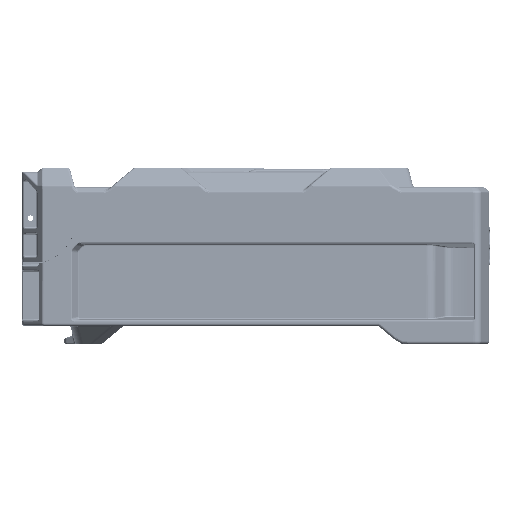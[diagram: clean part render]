
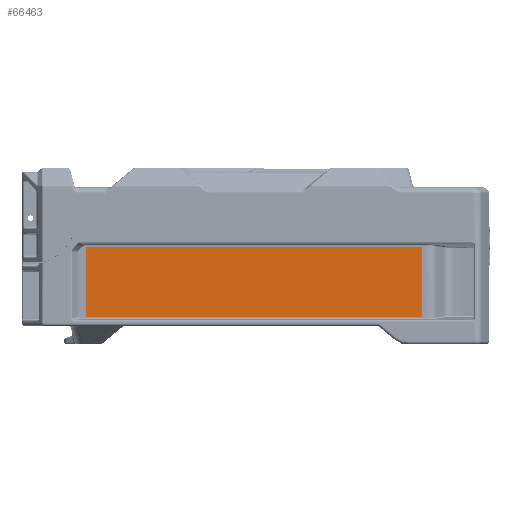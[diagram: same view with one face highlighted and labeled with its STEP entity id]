
A CAD part, left-side view. The second image highlights one B-rep face of the part: STEP entity #66463.
In plain terms, the highlighted planar face has unit normal (-1, 0, 0).
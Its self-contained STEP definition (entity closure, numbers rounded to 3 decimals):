
#48168=PLANE('',#201849);
#66463=ADVANCED_FACE('',(#79090),#48168,.T.);
#79090=FACE_OUTER_BOUND('',#88509,.T.);
#88509=EDGE_LOOP('',(#120819,#120820,#120821,#120822));
#120819=ORIENTED_EDGE('',*,*,#167016,.F.);
#120820=ORIENTED_EDGE('',*,*,#167017,.F.);
#120821=ORIENTED_EDGE('',*,*,#167018,.F.);
#120822=ORIENTED_EDGE('',*,*,#167019,.F.);
#149256=VERTEX_POINT('',#321215);
#149257=VERTEX_POINT('',#321216);
#149258=VERTEX_POINT('',#321218);
#149259=VERTEX_POINT('',#321220);
#167016=EDGE_CURVE('',#149256,#149257,#181659,.T.);
#167017=EDGE_CURVE('',#149258,#149256,#181660,.T.);
#167018=EDGE_CURVE('',#149259,#149258,#181661,.T.);
#167019=EDGE_CURVE('',#149257,#149259,#181662,.T.);
#181659=LINE('',#321214,#189957);
#181660=LINE('',#321217,#189958);
#181661=LINE('',#321219,#189959);
#181662=LINE('',#321221,#189960);
#189957=VECTOR('',#229059,1.);
#189958=VECTOR('',#229060,1.);
#189959=VECTOR('',#229061,1.);
#189960=VECTOR('',#229062,1.);
#201849=AXIS2_PLACEMENT_3D('',#321222,#229063,#229064);
#229059=DIRECTION('',(0.,-1.,0.));
#229060=DIRECTION('',(0.,0.,1.));
#229061=DIRECTION('',(0.,1.,0.));
#229062=DIRECTION('',(0.,0.,-1.));
#229063=DIRECTION('',(-1.,0.,0.));
#229064=DIRECTION('',(0.,0.,-1.));
#321214=CARTESIAN_POINT('',(-121.9,0.,-6.25));
#321215=CARTESIAN_POINT('',(-121.9,-22.888,-6.25));
#321216=CARTESIAN_POINT('',(-121.9,-142.888,-6.25));
#321217=CARTESIAN_POINT('',(-121.9,-22.888,0.));
#321218=CARTESIAN_POINT('',(-121.9,-22.888,-31.25));
#321219=CARTESIAN_POINT('',(-121.9,0.,-31.25));
#321220=CARTESIAN_POINT('',(-121.9,-142.888,-31.25));
#321221=CARTESIAN_POINT('',(-121.9,-142.888,0.));
#321222=CARTESIAN_POINT('',(-121.9,0.,0.));
